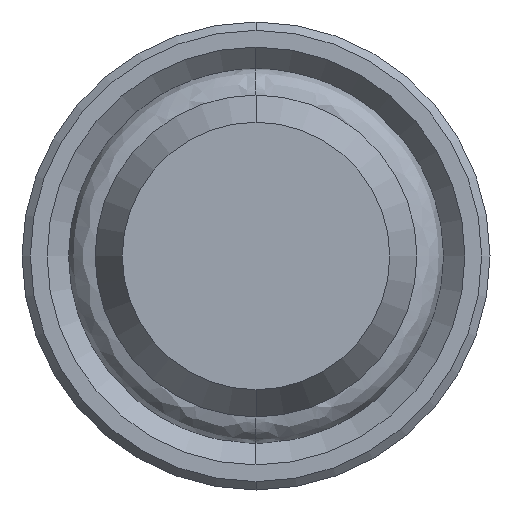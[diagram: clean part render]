
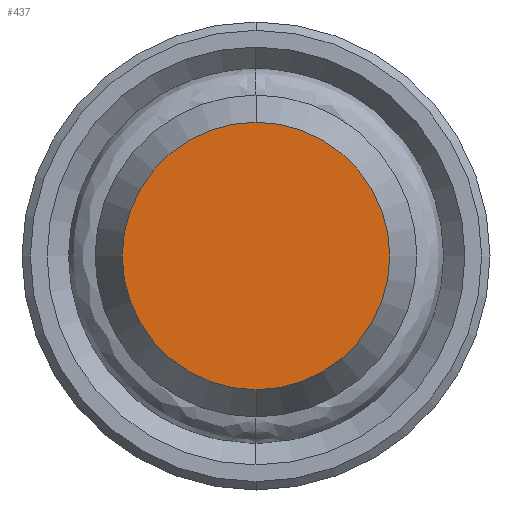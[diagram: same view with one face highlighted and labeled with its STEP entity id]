
A CAD part, front view. The second image highlights one B-rep face of the part: STEP entity #437.
In plain terms, the highlighted planar face has unit normal (0, -1, 0).
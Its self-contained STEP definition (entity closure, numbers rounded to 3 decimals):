
#18 = VERTEX_POINT ( 'NONE', #714 ) ;
#98 = AXIS2_PLACEMENT_3D ( 'NONE', #958, #949, #1816 ) ;
#123 = EDGE_CURVE ( 'NONE', #1455, #18, #547, .T. ) ;
#133 = CARTESIAN_POINT ( 'NONE',  ( -0.813, -3.934, 0. ) ) ;
#278 = DIRECTION ( 'NONE',  ( 0., 0., 1. ) ) ;
#363 = EDGE_LOOP ( 'NONE', ( #427, #414 ) ) ;
#414 = ORIENTED_EDGE ( 'NONE', *, *, #1628, .T. ) ;
#427 = ORIENTED_EDGE ( 'NONE', *, *, #123, .T. ) ;
#437 = ADVANCED_FACE ( 'NONE', ( #1775 ), #519, .T. ) ;
#467 = CIRCLE ( 'NONE', #711, 4. ) ;
#519 = PLANE ( 'NONE',  #98 ) ;
#547 = CIRCLE ( 'NONE', #696, 4. ) ;
#696 = AXIS2_PLACEMENT_3D ( 'NONE', #1311, #1335, #1346 ) ;
#711 = AXIS2_PLACEMENT_3D ( 'NONE', #133, #1149, #278 ) ;
#714 = CARTESIAN_POINT ( 'NONE',  ( -0.813, -3.934, -4. ) ) ;
#805 = CARTESIAN_POINT ( 'NONE',  ( -0.813, -3.934, 4. ) ) ;
#949 = DIRECTION ( 'NONE',  ( 0., -1., 0. ) ) ;
#958 = CARTESIAN_POINT ( 'NONE',  ( -4.861, -3.934, 4.048 ) ) ;
#1149 = DIRECTION ( 'NONE',  ( 0., -1., 0. ) ) ;
#1311 = CARTESIAN_POINT ( 'NONE',  ( -0.813, -3.934, 0. ) ) ;
#1335 = DIRECTION ( 'NONE',  ( 0., -1., 0. ) ) ;
#1346 = DIRECTION ( 'NONE',  ( 0., 0., 1. ) ) ;
#1455 = VERTEX_POINT ( 'NONE', #805 ) ;
#1628 = EDGE_CURVE ( 'NONE', #18, #1455, #467, .T. ) ;
#1775 = FACE_OUTER_BOUND ( 'NONE', #363, .T. ) ;
#1816 = DIRECTION ( 'NONE',  ( 0., 0., -1. ) ) ;
